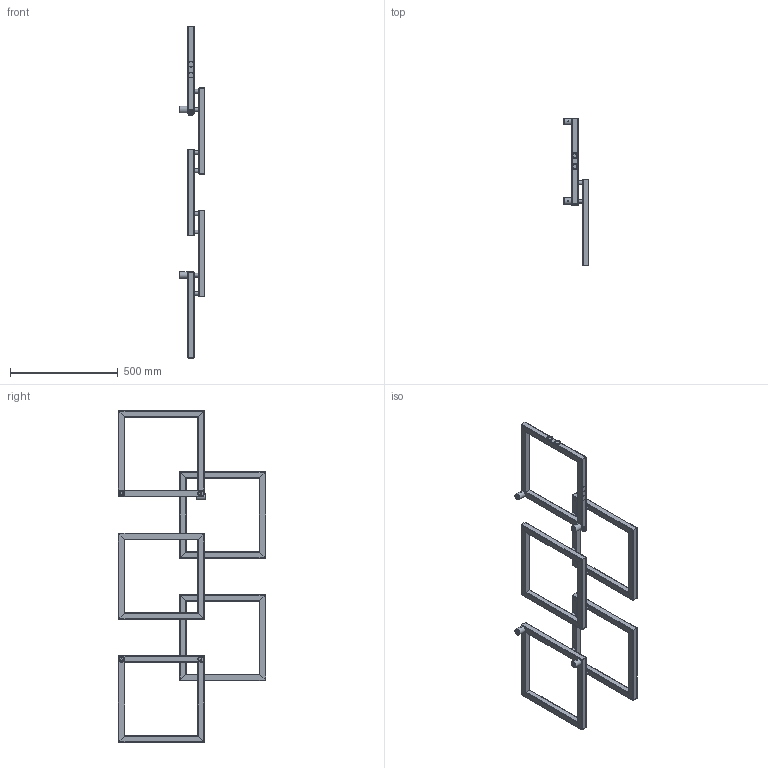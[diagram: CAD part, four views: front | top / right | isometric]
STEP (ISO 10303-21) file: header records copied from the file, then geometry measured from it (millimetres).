
FILE_DESCRIPTION( ( 'Unknown' ), '1' );
FILE_NAME( 'V:/DESIGN PROGRAM/LOCO/STP/LOCO 5.stp', 'Unknown', ( 'Unknown' ), ( 'Unknown' ), 'PSStep 10.1', 'Unknown', ' ' );
FILE_SCHEMA( ( 'AUTOMOTIVE_DESIGN { 1 0 10303 214 1 1 1 1 }' ) );
Length unit declared in the file: millimetre
Products named in the file (16): Ramka 3; Ramka 2; Mocowanie L40; Ramka 1; Assem1; MOCOWANIE L40-01; MOCOWANIE FASOLKA; MOCOWANIE L40-03; czêœæ 1; czêœæ 3; czêœæ 5; czêœæ 6; czêœæ 2; czêœæ 4; Zaslepka fi 30 z gwintem ; ｳｹcznik 
Bounding box: 120 x 685 x 1543 mm (x, y, z)
Volume: 2437492.8 mm3; surface area: 3199671.2 mm2
Topology: 68 solids, 68 shells, 965 faces, 2486 edges, 1660 vertices
Faces by surface type: plane 491, cylinder 438, cone 30, torus 6
Full cylindrical faces by diameter (mm): 4.917 x6, 12.5 x9, 15.5 x9, 16.3 x9, 16.5 x29, 17 x6, 17.2 x9, 18.631 x3, 20 x6, 22 x6, 22.7 x6, 23 x6, 25 x3, 25.25 x6, 29 x3, 30 x6
Entity records: 6533 total; most frequent: CARTESIAN_POINT 1017, DIRECTION 896, ORIENTED_EDGE 738, EDGE_CURVE 369, AXIS2_PLACEMENT_3D 344, VERTEX_POINT 261, EDGE_LOOP 224, LINE 208
